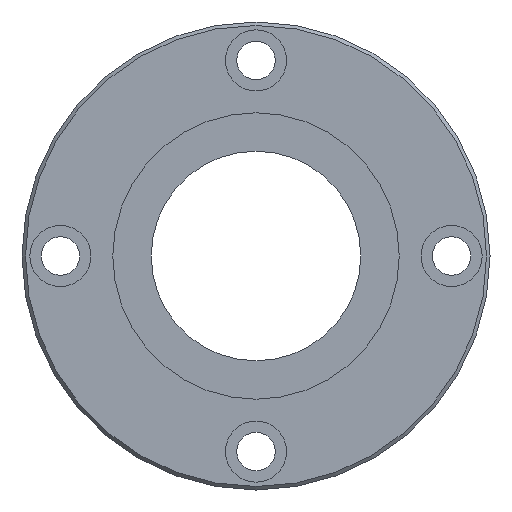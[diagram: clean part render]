
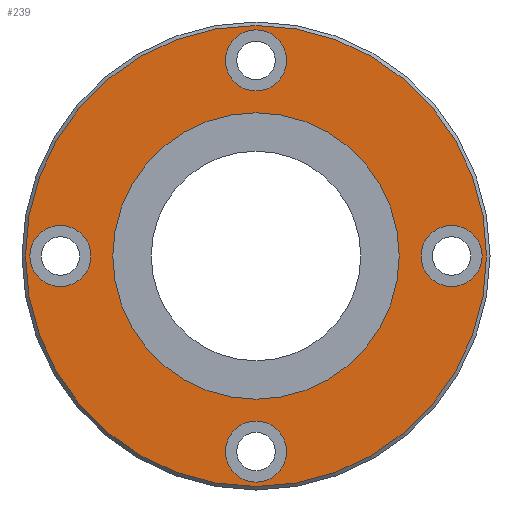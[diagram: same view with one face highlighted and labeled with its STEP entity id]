
A CAD part, left-side view. The second image highlights one B-rep face of the part: STEP entity #239.
In plain terms, the highlighted planar face has unit normal (-1, 0, 0).
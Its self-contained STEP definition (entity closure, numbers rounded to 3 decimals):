
#164=CARTESIAN_POINT('',(0.0,0.,66.0));
#165=VERTEX_POINT('',#164);
#166=CARTESIAN_POINT('',(0.0,0.0,0.0));
#167=DIRECTION('',(1.0,0.0,0.0));
#168=DIRECTION('',(0.0,0.0,-1.0));
#169=AXIS2_PLACEMENT_3D('',#166,#167,#168);
#170=CIRCLE('',#169,66.0);
#171=EDGE_CURVE('',#165,#165,#170,.T.);
#176=CARTESIAN_POINT('',(0.0,0.0,43.));
#177=DIRECTION('',(-1.0,0.0,0.0));
#178=DIRECTION('',(0.0,0.0,1.0));
#179=AXIS2_PLACEMENT_3D('',#176,#177,#178);
#180=PLANE('',#179);
#181=ORIENTED_EDGE('',*,*,#171,.F.);
#182=EDGE_LOOP('',(#181));
#183=FACE_OUTER_BOUND('',#182,.T.);
#184=CARTESIAN_POINT('',(0.0,0.0,41.));
#185=VERTEX_POINT('',#184);
#186=CARTESIAN_POINT('',(0.0,0.0,0.0));
#187=DIRECTION('',(-1.0,0.0,0.0));
#188=DIRECTION('',(0.0,0.0,1.0));
#189=AXIS2_PLACEMENT_3D('',#186,#187,#188);
#190=CIRCLE('',#189,41.);
#191=EDGE_CURVE('',#185,#185,#190,.T.);
#192=ORIENTED_EDGE('',*,*,#191,.F.);
#193=EDGE_LOOP('',(#192));
#194=FACE_BOUND('',#193,.T.);
#195=CARTESIAN_POINT('',(0.0,64.75,0.));
#196=VERTEX_POINT('',#195);
#197=CARTESIAN_POINT('',(0.0,56.,0.));
#198=DIRECTION('',(1.0,0.0,0.0));
#199=DIRECTION('',(0.0,1.0,0.0));
#200=AXIS2_PLACEMENT_3D('',#197,#198,#199);
#201=CIRCLE('',#200,8.75);
#202=EDGE_CURVE('',#196,#196,#201,.T.);
#203=ORIENTED_EDGE('',*,*,#202,.T.);
#204=EDGE_LOOP('',(#203));
#205=FACE_BOUND('',#204,.T.);
#206=CARTESIAN_POINT('',(0.0,-47.25,0.));
#207=VERTEX_POINT('',#206);
#208=CARTESIAN_POINT('',(0.0,-56.,0.));
#209=DIRECTION('',(1.0,0.0,0.0));
#210=DIRECTION('',(0.0,1.0,0.0));
#211=AXIS2_PLACEMENT_3D('',#208,#209,#210);
#212=CIRCLE('',#211,8.75);
#213=EDGE_CURVE('',#207,#207,#212,.T.);
#214=ORIENTED_EDGE('',*,*,#213,.T.);
#215=EDGE_LOOP('',(#214));
#216=FACE_BOUND('',#215,.T.);
#217=CARTESIAN_POINT('',(0.0,8.75,56.));
#218=VERTEX_POINT('',#217);
#219=CARTESIAN_POINT('',(0.0,0.,56.));
#220=DIRECTION('',(1.0,0.0,0.0));
#221=DIRECTION('',(0.0,1.0,0.0));
#222=AXIS2_PLACEMENT_3D('',#219,#220,#221);
#223=CIRCLE('',#222,8.75);
#224=EDGE_CURVE('',#218,#218,#223,.T.);
#225=ORIENTED_EDGE('',*,*,#224,.T.);
#226=EDGE_LOOP('',(#225));
#227=FACE_BOUND('',#226,.T.);
#228=CARTESIAN_POINT('',(0.0,8.75,-56.));
#229=VERTEX_POINT('',#228);
#230=CARTESIAN_POINT('',(0.0,0.,-56.));
#231=DIRECTION('',(1.0,0.0,0.0));
#232=DIRECTION('',(0.0,1.0,0.0));
#233=AXIS2_PLACEMENT_3D('',#230,#231,#232);
#234=CIRCLE('',#233,8.75);
#235=EDGE_CURVE('',#229,#229,#234,.T.);
#236=ORIENTED_EDGE('',*,*,#235,.T.);
#237=EDGE_LOOP('',(#236));
#238=FACE_BOUND('',#237,.T.);
#239=ADVANCED_FACE('',(#183,#194,#205,#216,#227,#238),#180,.T.);
